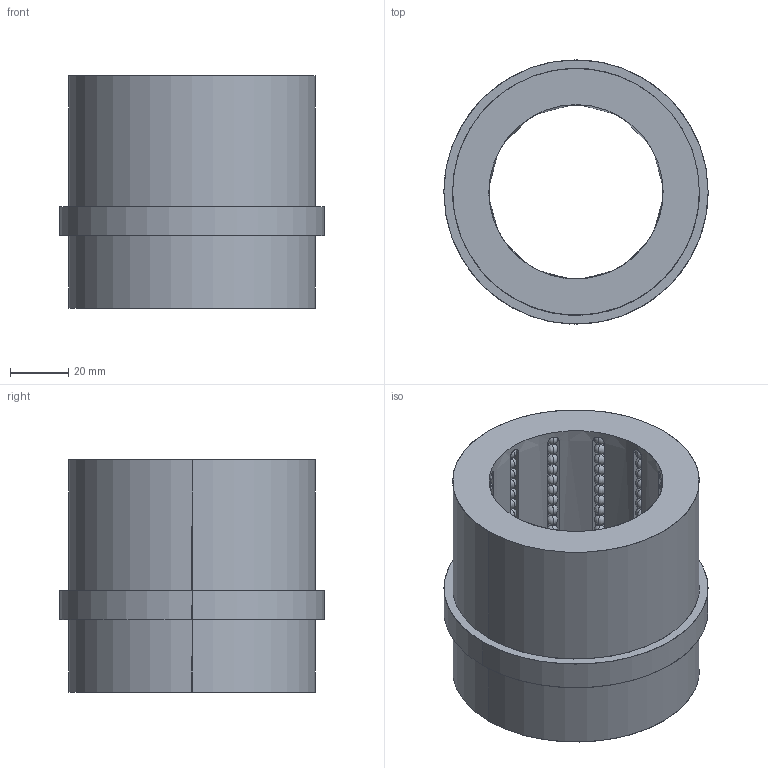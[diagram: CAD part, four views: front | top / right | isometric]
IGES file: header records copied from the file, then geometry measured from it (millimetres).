
Start section: START RECORD GO HERE.
Global section: file name: B8026055.igs; native system: DASSAULT SYSTEMES CATIA V5 R20 - www.3ds.com; preprocessor: CATIA Version 5 Release 20 ; author: Utente; organization: NB04-ASUS; date: 20200419.150606; units: millimetre
Bounding box: 91 x 91 x 80 mm (x, y, z)
Surface area: 62215.8 mm2 (no closed solid volume)
Topology: 0 solids, 0 shells, 936 faces, 3804 edges, 2076 vertices
Faces by surface type: revolution 896, plane 40
